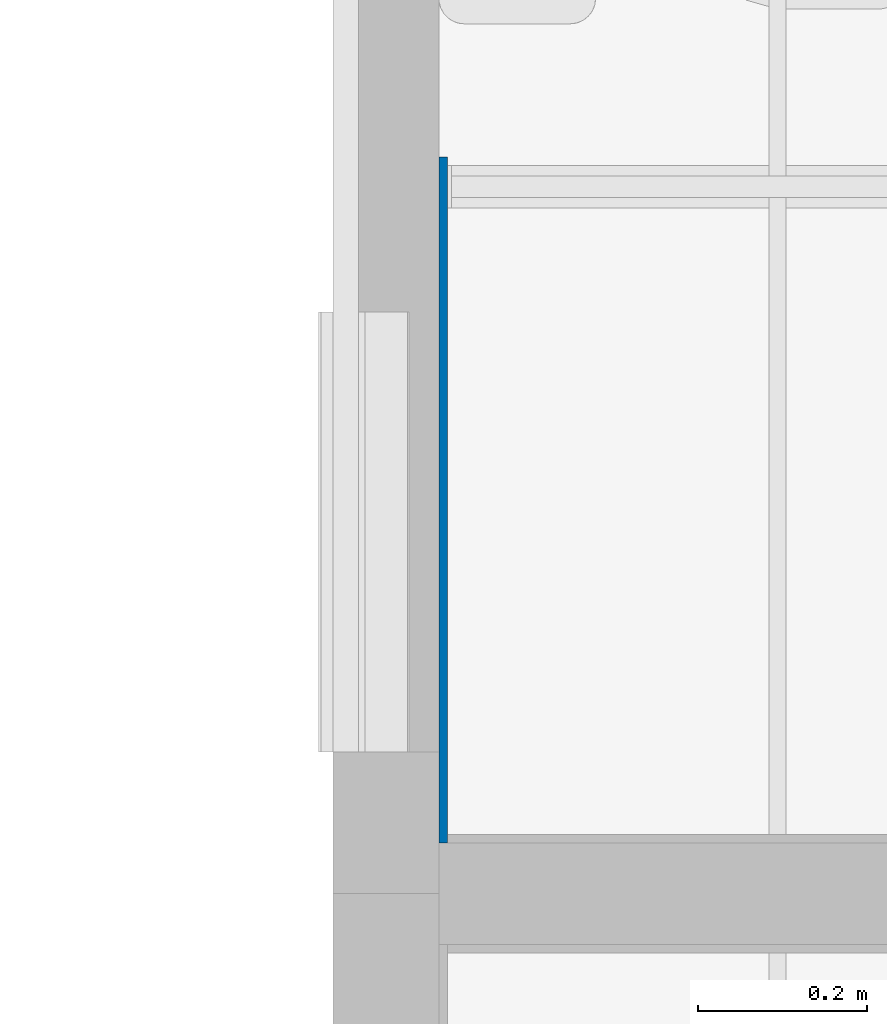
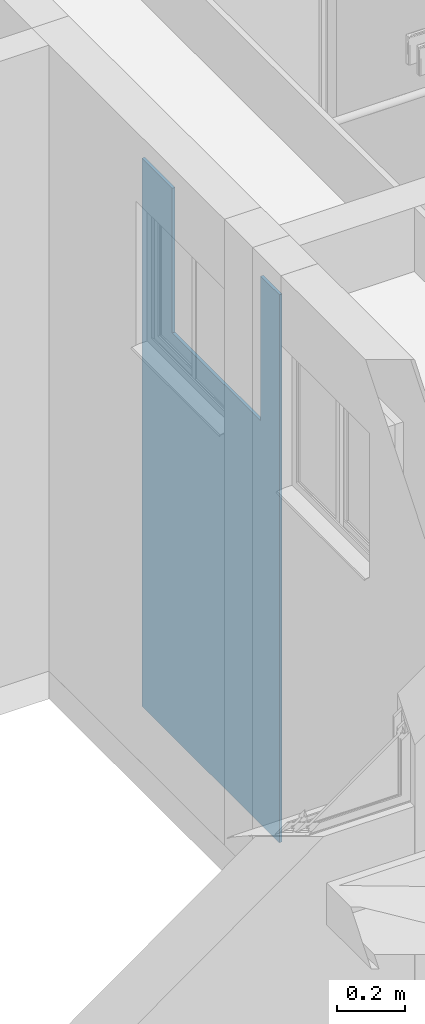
# One storey, part 34 of 47: 1 wall, 1 opening.
"""IFC4 building model written with IfcOpenShell, lengths in metres."""

from ifc_helpers import new_model, entity, si_unit, converted_unit, derived_unit, direction, frame, origin, place, context, subcontext, project, spatial, indexed_curve, outline, extrude, polygons, material, type_object, element, save


model = new_model("IFC4")

# Units and contexts
model_context = context("Model", 3, precision=1e-05, world=origin(), true_north=direction((6.123031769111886e-17, 1.0)))
body_context = subcontext(model_context, "Body", "Model", "MODEL_VIEW")
ifc_project = project(units=[si_unit("LENGTHUNIT", "METRE"), si_unit("AREAUNIT", "SQUARE_METRE"), si_unit("VOLUMEUNIT", "CUBIC_METRE"), converted_unit("PLANEANGLEUNIT", "DEGREE", entity("IfcRatioMeasure", 0.017453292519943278), si_unit("PLANEANGLEUNIT", "RADIAN"), dimensions=[0, 0, 0, 0, 0, 0, 0]), si_unit("MASSUNIT", "GRAM", prefix="KILO"), derived_unit("MASSDENSITYUNIT", [(si_unit("MASSUNIT", "GRAM", prefix="KILO"), 1), (si_unit("LENGTHUNIT", "METRE"), -3)]), derived_unit("IONCONCENTRATIONUNIT", [(si_unit("MASSUNIT", "GRAM", prefix="KILO"), 1), (si_unit("LENGTHUNIT", "METRE"), -3)]), derived_unit("MOMENTOFINERTIAUNIT", [(si_unit("LENGTHUNIT", "METRE"), 4)]), si_unit("TIMEUNIT", "SECOND"), si_unit("FREQUENCYUNIT", "HERTZ"), si_unit("THERMODYNAMICTEMPERATUREUNIT", "DEGREE_CELSIUS"), derived_unit("THERMALTRANSMITTANCEUNIT", [(si_unit("MASSUNIT", "GRAM", prefix="KILO"), 1), (si_unit("THERMODYNAMICTEMPERATUREUNIT", "KELVIN"), -1), (si_unit("TIMEUNIT", "SECOND"), -3)]), derived_unit("THERMALCONDUCTANCEUNIT", [(si_unit("MASSUNIT", "GRAM", prefix="KILO"), 1), (si_unit("THERMODYNAMICTEMPERATUREUNIT", "KELVIN"), -1), (si_unit("TIMEUNIT", "SECOND"), -3), (si_unit("LENGTHUNIT", "METRE"), 1)]), derived_unit("VOLUMETRICFLOWRATEUNIT", [(si_unit("LENGTHUNIT", "METRE"), 3), (si_unit("TIMEUNIT", "SECOND"), -1)]), derived_unit("MASSFLOWRATEUNIT", [(si_unit("MASSUNIT", "GRAM", prefix="KILO"), 1), (si_unit("TIMEUNIT", "SECOND"), -1)]), derived_unit("ROTATIONALFREQUENCYUNIT", [(si_unit("TIMEUNIT", "SECOND"), -1)]), si_unit("ELECTRICCURRENTUNIT", "AMPERE"), si_unit("ELECTRICVOLTAGEUNIT", "VOLT"), si_unit("POWERUNIT", "WATT"), si_unit("FORCEUNIT", "NEWTON", prefix="KILO"), si_unit("ILLUMINANCEUNIT", "LUX"), si_unit("LUMINOUSFLUXUNIT", "LUMEN"), si_unit("LUMINOUSINTENSITYUNIT", "CANDELA"), derived_unit("USERDEFINED", [(si_unit("MASSUNIT", "GRAM", prefix="KILO"), -1), (si_unit("LENGTHUNIT", "METRE"), -2), (si_unit("TIMEUNIT", "SECOND"), 3), (si_unit("LUMINOUSFLUXUNIT", "LUMEN"), 1)]), derived_unit("USERDEFINED", [(si_unit("MASSUNIT", "GRAM", prefix="KILO"), 1), (si_unit("TIMEUNIT", "SECOND"), -3), (si_unit("LENGTHUNIT", "METRE"), 3), (si_unit("ELECTRICCURRENTUNIT", "AMPERE"), -2)]), derived_unit("SOUNDPOWERUNIT", [(si_unit("MASSUNIT", "GRAM", prefix="KILO"), 1), (si_unit("TIMEUNIT", "SECOND"), -3), (si_unit("LENGTHUNIT", "METRE"), 2)]), derived_unit("SOUNDPRESSUREUNIT", [(si_unit("MASSUNIT", "GRAM", prefix="KILO"), 1), (si_unit("LENGTHUNIT", "METRE"), -1), (si_unit("TIMEUNIT", "SECOND"), -2)]), derived_unit("LINEARVELOCITYUNIT", [(si_unit("LENGTHUNIT", "METRE"), 1), (si_unit("TIMEUNIT", "SECOND"), -1)]), si_unit("PRESSUREUNIT", "PASCAL"), derived_unit("USERDEFINED", [(si_unit("MASSUNIT", "GRAM", prefix="KILO"), 1), (si_unit("LENGTHUNIT", "METRE"), -2), (si_unit("TIMEUNIT", "SECOND"), -2)]), derived_unit("LINEARFORCEUNIT", [(si_unit("MASSUNIT", "GRAM", prefix="KILO"), 1), (si_unit("TIMEUNIT", "SECOND"), -2)]), derived_unit("PLANARFORCEUNIT", [(si_unit("MASSUNIT", "GRAM", prefix="KILO"), 1), (si_unit("LENGTHUNIT", "METRE"), -1), (si_unit("TIMEUNIT", "SECOND"), -2)]), derived_unit("SPECIFICHEATCAPACITYUNIT", [(si_unit("THERMODYNAMICTEMPERATUREUNIT", "KELVIN"), -1), (si_unit("LENGTHUNIT", "METRE"), 2), (si_unit("TIMEUNIT", "SECOND"), -2)]), derived_unit("HEATINGVALUEUNIT", [(si_unit("LENGTHUNIT", "METRE"), 2), (si_unit("TIMEUNIT", "SECOND"), -2)]), derived_unit("VAPORPERMEABILITYUNIT", [(si_unit("LENGTHUNIT", "METRE"), -1), (si_unit("TIMEUNIT", "SECOND"), 1)]), derived_unit("DYNAMICVISCOSITYUNIT", [(si_unit("MASSUNIT", "GRAM", prefix="KILO"), 1), (si_unit("TIMEUNIT", "SECOND"), -1), (si_unit("LENGTHUNIT", "METRE"), -1)]), derived_unit("THERMALEXPANSIONCOEFFICIENTUNIT", [(si_unit("THERMODYNAMICTEMPERATUREUNIT", "KELVIN"), -1)]), derived_unit("MODULUSOFELASTICITYUNIT", [(si_unit("MASSUNIT", "GRAM", prefix="KILO"), 1), (si_unit("LENGTHUNIT", "METRE"), -1), (si_unit("TIMEUNIT", "SECOND"), -2)]), derived_unit("ISOTHERMALMOISTURECAPACITYUNIT", [(si_unit("LENGTHUNIT", "METRE"), 3), (si_unit("MASSUNIT", "GRAM", prefix="KILO"), -1)]), derived_unit("MOISTUREDIFFUSIVITYUNIT", [(si_unit("TIMEUNIT", "SECOND"), -1), (si_unit("LENGTHUNIT", "METRE"), 2)])], contexts=[model_context])

# Site, building, storey
site_placement = place(None, origin())
site = spatial("IfcSite", under=ifc_project, at=site_placement, Name="Default", CompositionType="ELEMENT")
building_placement = place(site_placement, origin())
building = spatial("IfcBuilding", under=site, at=building_placement, CompositionType="ELEMENT")
storey_placement = place(building_placement, frame((0.0, 0.0, 11.750000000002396)))
storey = spatial("IfcBuildingStorey", under=building, at=storey_placement, Name="Nivel 6", CompositionType="ELEMENT", Elevation=11.750000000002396)

# Wall, opening
ifc_material = material(Name="Ceramica 0.25m x 0.35m", Category="Materials")
wall_type = type_object("IfcWallType", Name="Basic Wall:C2010 - 0.25 x 0.35 - Enchape cerámico", PredefinedType="STANDARD")
wall_placement = place(storey_placement, frame((14.687500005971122, -6.3650000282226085, 0.029999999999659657), z_axis=(0.0, 0.0, 1.0), x_axis=(0.0, 1.0, 0.0)))
wall = element("IfcWall", 1, at=wall_placement, inside=storey, type_object=wall_type, material=ifc_material, Name="Basic Wall:C2010 - 0.25 x 0.35 - Enchape cerámico", ObjectType="Basic Wall:C2010 - 0.25 x 0.35 - Enchape cerámico", PredefinedType="NOTDEFINED", context=body_context, shape_type="Tessellation", body=[
    polygons([(0.0, -0.004999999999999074, 2.1657342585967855e-15), (0.009999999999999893, -0.004999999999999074, 2.1657342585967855e-15), (0.8099999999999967, -0.004999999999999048, 2.1657342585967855e-15), (0.8099999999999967, -0.004999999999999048, 1.9700000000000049), (0.6309543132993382, -0.004999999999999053, 1.9700000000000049), (0.6309543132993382, -0.004999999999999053, 1.450000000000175), (0.11095431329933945, -0.00499999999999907, 1.450000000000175), (0.11095431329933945, -0.00499999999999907, 1.9700000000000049), (0.009999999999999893, -0.004999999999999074, 1.9700000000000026), (0.0, -0.004999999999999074, 1.9700000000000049), (0.0, 0.004999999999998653, 2.1657342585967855e-15), (0.0, 0.004999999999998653, 1.9700000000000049), (0.11095431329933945, 0.004999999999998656, 1.9700000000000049), (0.11095431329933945, 0.004999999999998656, 1.450000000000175), (0.6309543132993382, 0.004999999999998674, 1.450000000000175), (0.6309543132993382, 0.004999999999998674, 1.9700000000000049), (0.8099999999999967, 0.004999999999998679, 1.9700000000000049), (0.8099999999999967, 0.004999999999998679, 2.1657342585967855e-15)], [[[1, 2, 3, 4, 5, 6, 7, 8, 9, 10]], [[11, 12, 13, 14, 15, 16, 17, 18]], [[3, 2, 1, 11, 18]], [[4, 3, 18, 17]], [[5, 4, 17, 16]], [[6, 5, 16, 15]], [[7, 6, 15, 14]], [[8, 7, 14, 13]], [[10, 9, 8, 13, 12]], [[1, 10, 12, 11]]], closed=True),
])
opening_placement = place(wall_placement, origin())
element("IfcOpeningElement", 2, at=opening_placement, cuts=wall, Name="Basic Wall:C2010 - 0.25 x 0.35 - Enchape cerámico", PredefinedType="OPENING", context=body_context, shape_type="SweptSolid", body=[
    extrude(outline(indexed_curve([(-0.2599999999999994, -0.2599999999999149), (0.2599999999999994, -0.2599999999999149), (0.2599999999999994, 0.2599999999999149), (-0.2599999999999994, 0.2599999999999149), (-0.2599999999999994, -0.2599999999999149)], self_intersect=False)), frame((0.3709543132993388, 0.00500000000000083, 1.7100000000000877), z_axis=(0.0, -1.0, 0.0), x_axis=(-1.0, 0.0, 0.0)), (0.0, 0.0, 1.0), 0.01),
])

save(model, "model.ifc")
